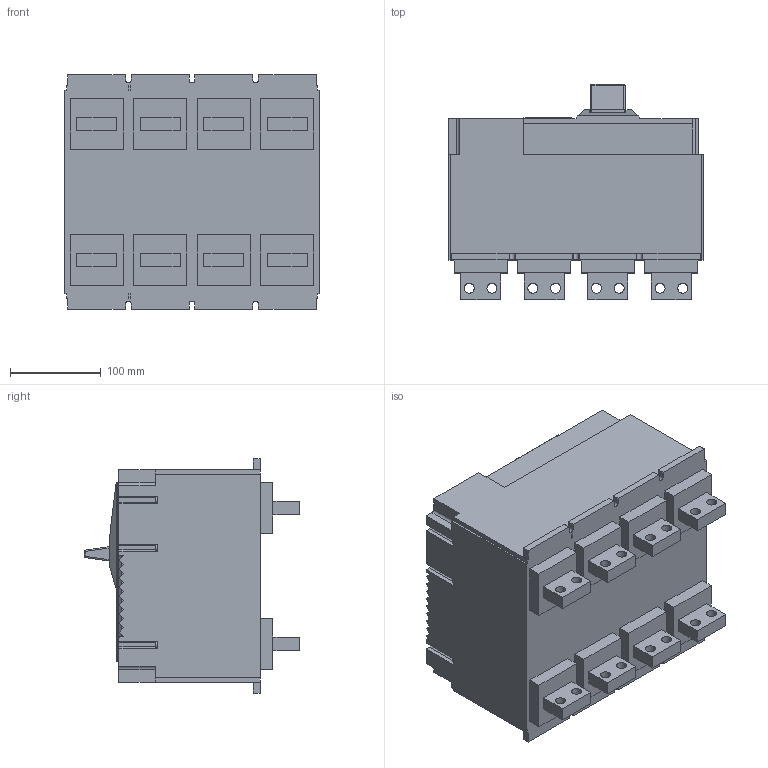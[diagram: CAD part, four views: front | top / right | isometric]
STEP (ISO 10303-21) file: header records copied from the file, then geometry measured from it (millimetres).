
FILE_DESCRIPTION(/* description */ ('','CAx-IF Rec.Pracs.---Representation and Presentation of Product Manufacturing Information (PMI)---3.8---2014-02-18'),/* implementation_level */ '2;1');
FILE_NAME(/* name */ 'E:\3D model\51-susol-1600af-iec-down-4p.stp',/* time_stamp */ '2017-11-09T15:00:33+03:00',/* author */ ('dobrin'),/* organization */ (''),/* preprocessor_version */ 'ST-DEVELOPER v16.13',/* originating_system */ 'Autodesk Inventor 2018',/* authorisation */ '');
FILE_SCHEMA (('AP242_MANAGED_MODEL_BASED_3D_ENGINEERING_MIM_LF { 1 0 10303 442 1 1 4 }'));
Length unit declared in the file: metre
Products named in the file (1): 51-susol-1600af-iec-down-4p
Bounding box: 280 x 237.1 x 258 mm (x, y, z)
Volume: 10561855.2 mm3; surface area: 392068.9 mm2
Topology: 1 solids, 1 shells, 599 faces, 1572 edges, 1025 vertices
Faces by surface type: plane 507, cylinder 79, torus 9, sphere 4
Full cylindrical faces by diameter (mm): 7 x9, 11 x16
Entity records: 18187 total; most frequent: CARTESIAN_POINT 3188, ORIENTED_EDGE 3080, DIRECTION 2943, EDGE_CURVE 1538, LINE 1367, VECTOR 1367, VERTEX_POINT 1025, AXIS2_PLACEMENT_3D 792
